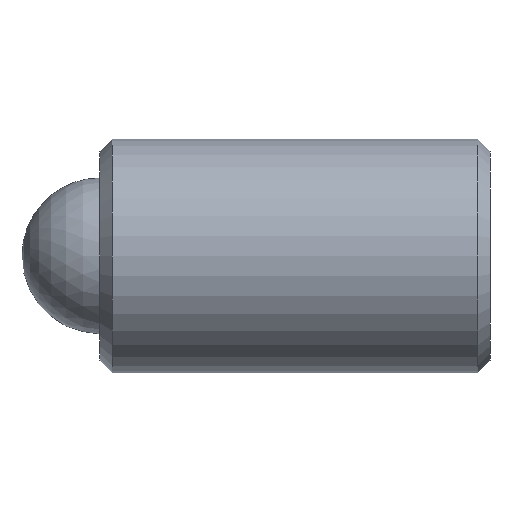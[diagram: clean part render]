
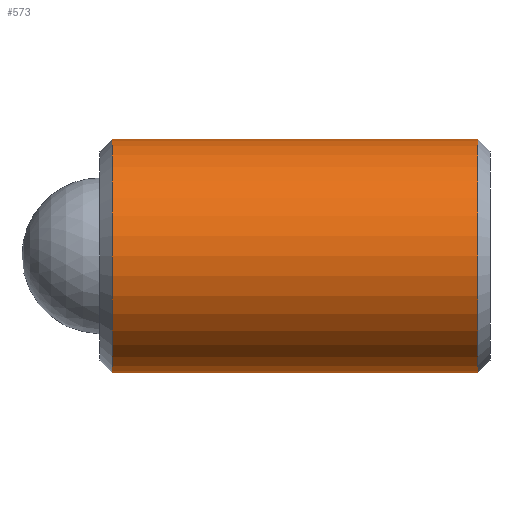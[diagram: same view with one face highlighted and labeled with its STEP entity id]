
A CAD part, front view. The second image highlights one B-rep face of the part: STEP entity #573.
In plain terms, the highlighted cylindrical face has radius 2.375 mm (diameter 4.75 mm), a partial arc.
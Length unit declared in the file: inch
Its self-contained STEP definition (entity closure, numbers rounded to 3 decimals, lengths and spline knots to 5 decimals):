
#2 = CARTESIAN_POINT ( 'NONE',  ( 0.01, 0., 0.0935 ) ) ;
#9 = VERTEX_POINT ( 'NONE', #2 ) ;
#13 = CARTESIAN_POINT ( 'NONE',  ( 0.3025, 0., -0.0935 ) ) ;
#17 = VERTEX_POINT ( 'NONE', #489 ) ;
#33 = VERTEX_POINT ( 'NONE', #13 ) ;
#100 = AXIS2_PLACEMENT_3D ( 'NONE', #209, #560, #283 ) ;
#123 = VECTOR ( 'NONE', #406, 39.37008 ) ;
#124 = VERTEX_POINT ( 'NONE', #130 ) ;
#129 = ORIENTED_EDGE ( 'NONE', *, *, #594, .T. ) ;
#130 = CARTESIAN_POINT ( 'NONE',  ( 0.01, 0., -0.0935 ) ) ;
#134 = EDGE_CURVE ( 'NONE', #33, #124, #490, .T. ) ;
#141 = CIRCLE ( 'NONE', #100, 0.0935 ) ;
#147 = ORIENTED_EDGE ( 'NONE', *, *, #556, .T. ) ;
#155 = DIRECTION ( 'NONE',  ( -1., 0., 0. ) ) ;
#165 = FACE_OUTER_BOUND ( 'NONE', #175, .T. ) ;
#175 = EDGE_LOOP ( 'NONE', ( #456, #147, #129, #237 ) ) ;
#180 = CIRCLE ( 'NONE', #572, 0.0935 ) ;
#209 = CARTESIAN_POINT ( 'NONE',  ( 0.01, 0., 0. ) ) ;
#237 = ORIENTED_EDGE ( 'NONE', *, *, #602, .T. ) ;
#271 = LINE ( 'NONE', #352, #123 ) ;
#283 = DIRECTION ( 'NONE',  ( 0., 0., -1. ) ) ;
#285 = DIRECTION ( 'NONE',  ( -1., 0., 0. ) ) ;
#321 = CARTESIAN_POINT ( 'NONE',  ( 0.3125, 0., 0. ) ) ;
#340 = DIRECTION ( 'NONE',  ( -1., 0., 0. ) ) ;
#352 = CARTESIAN_POINT ( 'NONE',  ( 0.3125, 0., 0.0935 ) ) ;
#406 = DIRECTION ( 'NONE',  ( -1., 0., 0. ) ) ;
#435 = CARTESIAN_POINT ( 'NONE',  ( 0.3125, 0., -0.0935 ) ) ;
#456 = ORIENTED_EDGE ( 'NONE', *, *, #134, .F. ) ;
#461 = CARTESIAN_POINT ( 'NONE',  ( 0.3025, 0., 0. ) ) ;
#489 = CARTESIAN_POINT ( 'NONE',  ( 0.3025, 0., 0.0935 ) ) ;
#490 = LINE ( 'NONE', #435, #511 ) ;
#504 = DIRECTION ( 'NONE',  ( 0., 0., -1. ) ) ;
#511 = VECTOR ( 'NONE', #340, 39.37008 ) ;
#517 = CYLINDRICAL_SURFACE ( 'NONE', #532, 0.0935 ) ;
#532 = AXIS2_PLACEMENT_3D ( 'NONE', #321, #285, #565 ) ;
#556 = EDGE_CURVE ( 'NONE', #33, #17, #180, .T. ) ;
#560 = DIRECTION ( 'NONE',  ( 1., 0., 0. ) ) ;
#565 = DIRECTION ( 'NONE',  ( 0., 0., 1. ) ) ;
#572 = AXIS2_PLACEMENT_3D ( 'NONE', #461, #155, #504 ) ;
#573 = ADVANCED_FACE ( 'NONE', ( #165 ), #517, .T. ) ;
#594 = EDGE_CURVE ( 'NONE', #17, #9, #271, .T. ) ;
#602 = EDGE_CURVE ( 'NONE', #9, #124, #141, .T. ) ;
